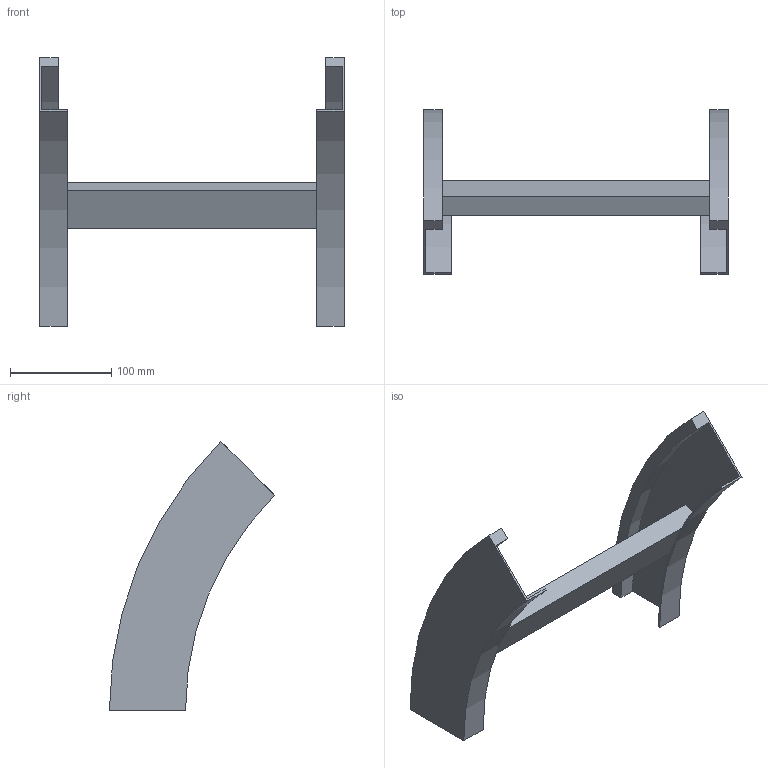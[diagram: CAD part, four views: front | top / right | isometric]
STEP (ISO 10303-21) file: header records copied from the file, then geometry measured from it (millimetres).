
FILE_DESCRIPTION (( 'STEP AP214' ), '1' );
FILE_NAME ('B2_34B3C300.step', '2025-02-21T14:55:27', ( '' ), ( '' ), 'SwSTEP 2.0', 'SolidWorks 2023', '' );
FILE_SCHEMA (( 'AUTOMOTIVE_DESIGN' ));
Length unit declared in the file: millimetre
Products named in the file (3): B2_LONGH.DISCESA_45°_H75_R300; TRAVERSINO_300; B2_34B3C300
Assembly tree (3 placements, depth 2):
  B2_34B3C300
    B2_LONGH.DISCESA_45°_H75_R300  x2
    TRAVERSINO_300
Bounding box: 300 x 162.87 x 265.17 mm (x, y, z)
Volume: 454209.8 mm3; surface area: 162834.6 mm2
Topology: 3 solids, 3 shells, 26 faces, 60 edges, 40 vertices
Faces by surface type: plane 18, cylinder 8
Entity records: 544 total; most frequent: DIRECTION 88, CARTESIAN_POINT 82, ORIENTED_EDGE 72, EDGE_CURVE 36, AXIS2_PLACEMENT_3D 30, VECTOR 28, LINE 28, VERTEX_POINT 24
